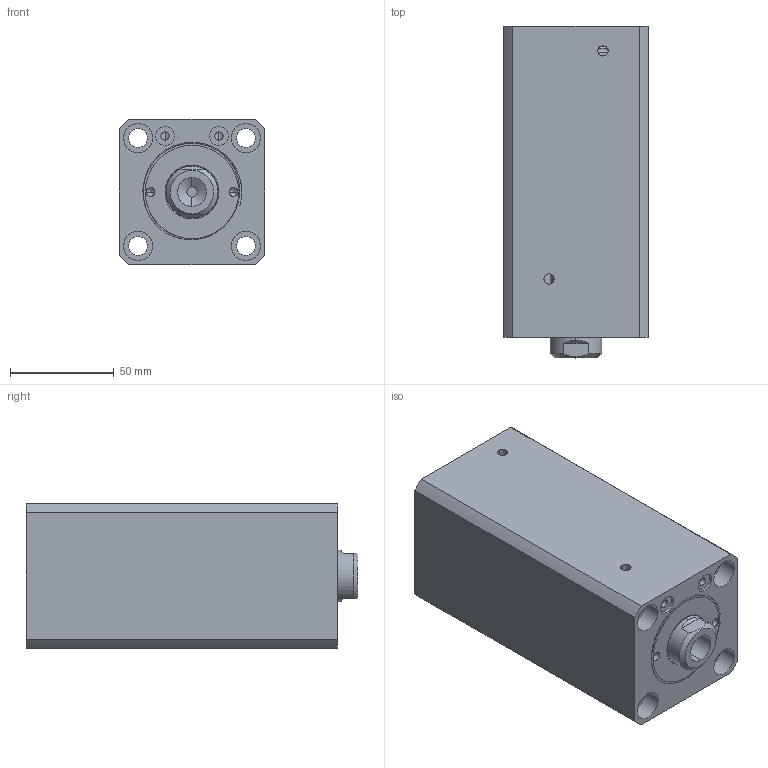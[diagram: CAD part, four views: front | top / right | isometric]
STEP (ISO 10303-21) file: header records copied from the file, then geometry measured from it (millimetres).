
FILE_DESCRIPTION (( 'STEP AP214' ), '1' );
FILE_NAME ('chtb-sdma40x95n_asm.STEP', '2018-06-06T07:07:32', ( 'Windows' ), ( 'Microsoft' ), 'SwSTEP 2.0', 'SolidWorks 2015', '' );
FILE_SCHEMA (( 'AUTOMOTIVE_DESIGN' ));
Length unit declared in the file: millimetre
Products named in the file (4): CHTB-SDMA40X95NBT; CHTB-SD40X95NHSG; chtb-sdma40x95n_asm; CHTB-SD40QG
Assembly tree (3 placements, depth 2):
  chtb-sdma40x95n_asm
    CHTB-SD40X95NHSG
    CHTB-SDMA40X95NBT
    CHTB-SD40QG
Bounding box: 70 x 160 x 70 mm (x, y, z)
Volume: 603352.8 mm3; surface area: 117438.3 mm2
Topology: 3 solids, 3 shells, 157 faces, 413 edges, 274 vertices
Faces by surface type: cylinder 84, plane 36, torus 14, bspline 14, cone 9
Entity records: 10139 total; most frequent: CARTESIAN_POINT 6157, ORIENTED_EDGE 814, DIRECTION 768, EDGE_CURVE 407, AXIS2_PLACEMENT_3D 326, VERTEX_POINT 274, EDGE_LOOP 193, CIRCLE 177
